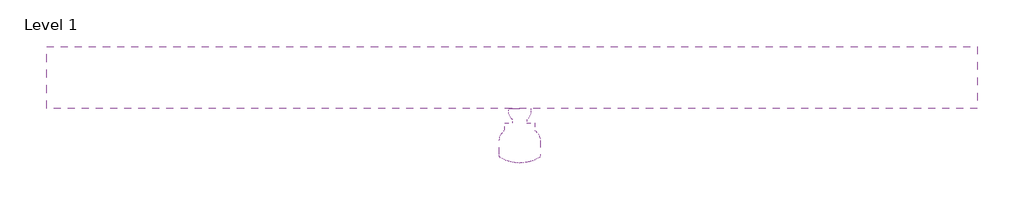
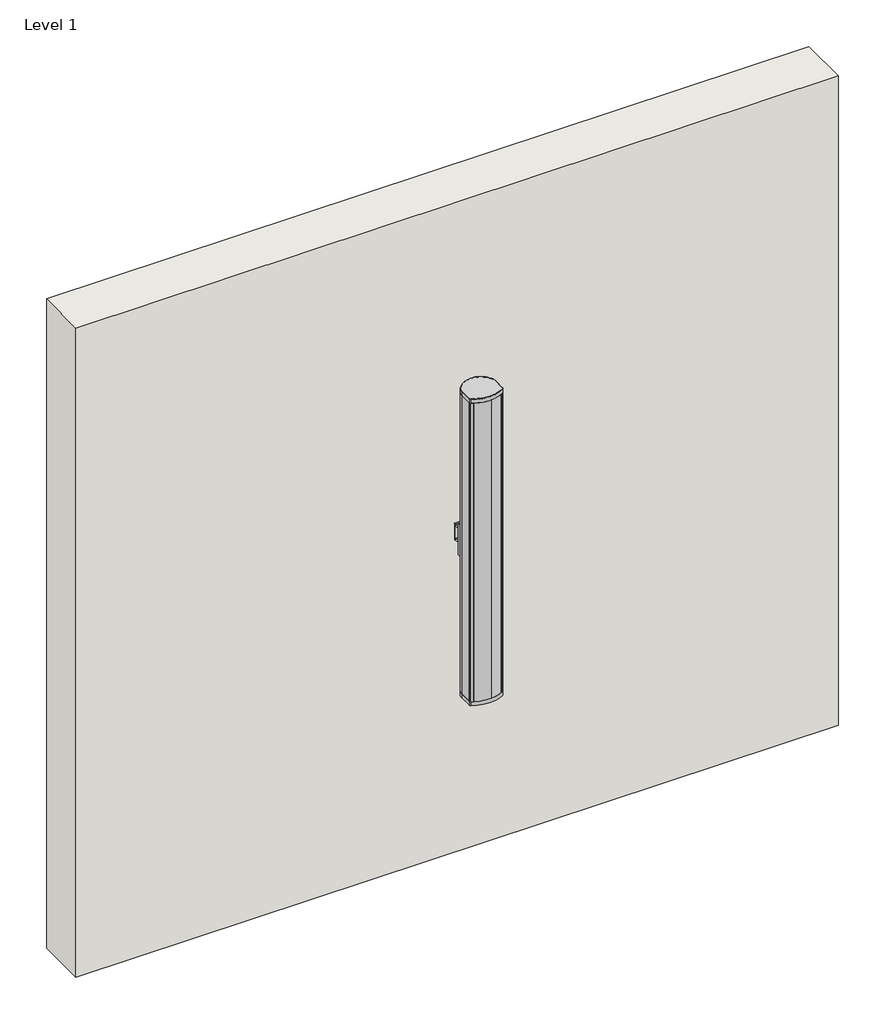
# One storey: 1 proxy, 1 wall.
"""IFC4 building model written with IfcOpenShell, lengths in millimetres."""

from ifc_helpers import new_model, si_unit, frame, origin, place, context, project, spatial, polyline, outline, extrude, transform, mapped, element, save
from components import communication_devices_869d7f4c

model = new_model("IFC4")

# Units and contexts
model_context = context("Model", 3, world=origin())
ifc_project = project(units=[si_unit("LENGTHUNIT", "METRE", prefix="MILLI")], contexts=[model_context])

# Site, building, storey
site = spatial("IfcSite", under=ifc_project)
building = spatial("IfcBuilding", under=site)
storey = spatial("IfcBuildingStorey", under=building, Name="Level 1", Elevation=0.0)

# Proxy
placement = place(None, origin())
communication_devices_shape = communication_devices_869d7f4c(model_context)
element("IfcBuildingElementProxy", 1, Name="230208 BIM Data_CU 350T VA : CU 350T VA", ObjectType="230208 BIM Data_CU 350T VA : CU 350T VA", at=placement, inside=storey, context=model_context, shape_type="MappedRepresentation", body=[
    mapped(communication_devices_shape, transform((2995.2473575, 1876.6292628, 1752.6), x_axis=(1.0, 0.0, 0.0), y_axis=(0.0, 1.0, 0.0), z_axis=(0.0, 0.0, 1.0))),
])

# Wall
element("IfcWall", 2, ObjectType="Exterior - 6\" Generic", at=placement, inside=storey, context=model_context, shape_type="SweptSolid", body=[
    extrude(outline(polyline([(4119.1973575, 1963.1766815), (1833.1973575, 1963.1766815), (1833.1973575, 2115.5766815), (4119.1973575, 2115.5766815), (4119.1973575, 1963.1766815)])), frame((0.0, 0.0, 1207.2429788), z_axis=(0.0, 0.0, 1.0), x_axis=(1.0, 0.0, 0.0)), (0.0, 0.0, 1.0), 2058.6988514),
])

save(model, "model.ifc")
